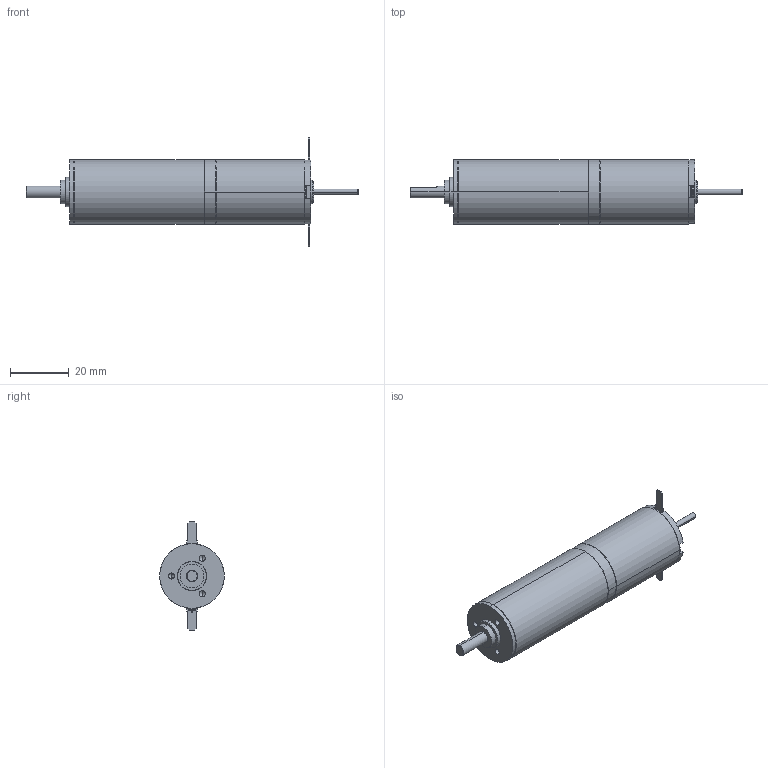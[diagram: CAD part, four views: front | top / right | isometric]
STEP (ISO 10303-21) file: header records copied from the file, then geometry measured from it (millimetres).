
FILE_DESCRIPTION (( 'STEP AP214' ), '1' );
FILE_NAME ('DCX22S_+_GP022C-4ETAGES.STEP', '2013-12-17T09:14:05', ( '' ), ( '' ), 'SwSTEP 2.0', 'SolidWorks 2013', '' );
FILE_SCHEMA (( 'AUTOMOTIVE_DESIGN' ));
Length unit declared in the file: millimetre
Products named in the file (3): GP022C_Etage 4; DCX22S_+_GP022C-4ETAGES; DCX22S GB KL
Assembly tree (2 placements, depth 2):
  DCX22S_+_GP022C-4ETAGES
    GP022C_Etage 4
    DCX22S GB KL
Bounding box: 113 x 22 x 36.9 mm (x, y, z)
Volume: 14854.1 mm3; surface area: 9739.7 mm2
Topology: 1 solids, 52 shells, 300 faces, 1041 edges, 773 vertices
Faces by surface type: plane 102, cylinder 100, cone 89, bspline 9
Entity records: 14873 total; most frequent: CARTESIAN_POINT 2688, DIRECTION 2088, ORIENTED_EDGE 1531, EDGE_CURVE 1035, AXIS2_PLACEMENT_3D 793, VERTEX_POINT 773, VECTOR 502, LINE 502
